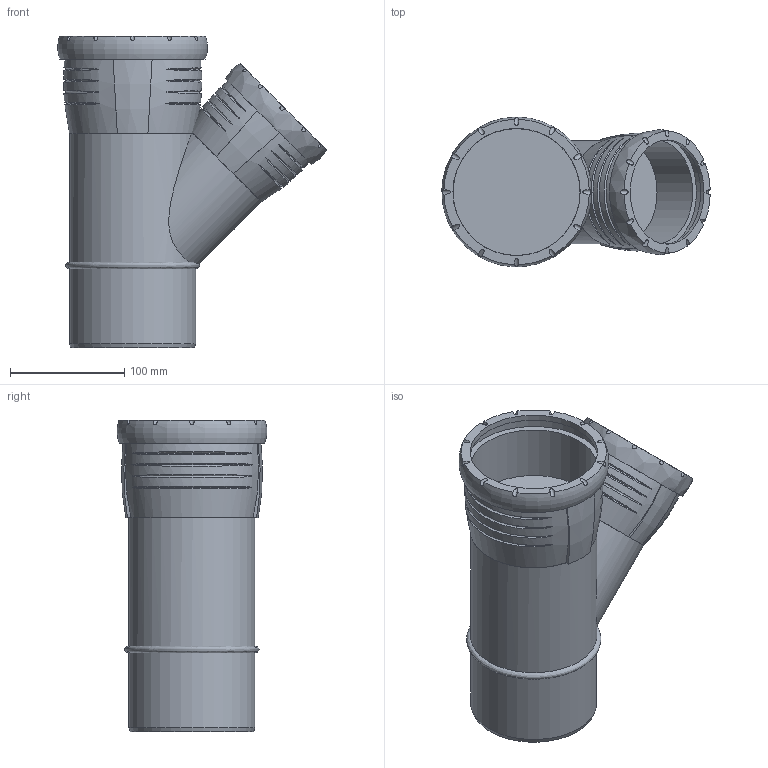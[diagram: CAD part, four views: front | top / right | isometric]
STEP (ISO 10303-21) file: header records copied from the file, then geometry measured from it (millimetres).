
FILE_DESCRIPTION(/* description */ (''),/* implementation_level */ '2;1');
FILE_NAME(/* name */ 'H:\Geberit-Teile\Export\Abzweig PP\stp\393534.stp',/* time_stamp */ '2017-02-13T13:18:47+01:00',/* author */ ('seihe2'),/* organization */ (''),/* preprocessor_version */ 'ST-DEVELOPER v15.2',/* originating_system */ 'Autodesk Inventor 2014',/* authorisation */ '');
FILE_SCHEMA (('AUTOMOTIVE_DESIGN { 1 0 10303 214 3 1 1 }'));
Length unit declared in the file: millimetre
Products named in the file (1): 393534
Bounding box: 234.73 x 130.89 x 272.7 mm (x, y, z)
Volume: 2174687.4 mm3; surface area: 277417.4 mm2
Topology: 5 solids, 5 shells, 104 faces, 242 edges, 172 vertices
Faces by surface type: bspline 46, cylinder 37, plane 19, cone 1, torus 1
Full cylindrical faces by diameter (mm): 74.497 x1, 90 x1, 90.2 x1, 90.9 x1, 91.2 x1, 100.2 x1, 101.2 x1, 110.2 x3, 111 x1, 111.3 x1, 121.5 x1
Entity records: 7537 total; most frequent: CARTESIAN_POINT 5406, ORIENTED_EDGE 444, DIRECTION 314, EDGE_CURVE 221, VERTEX_POINT 166, AXIS2_PLACEMENT_3D 157, EDGE_LOOP 147, B_SPLINE_CURVE_WITH_KNOTS 122
